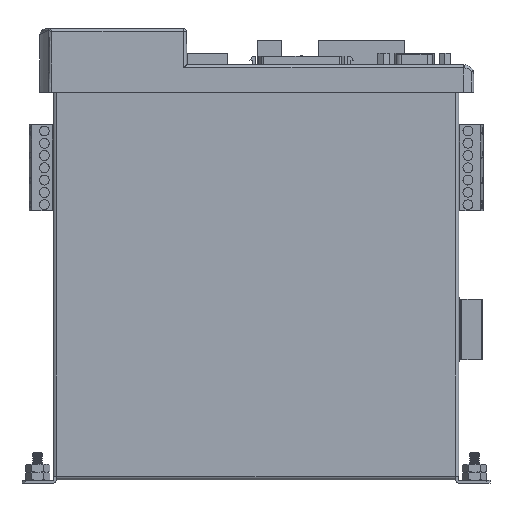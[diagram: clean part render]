
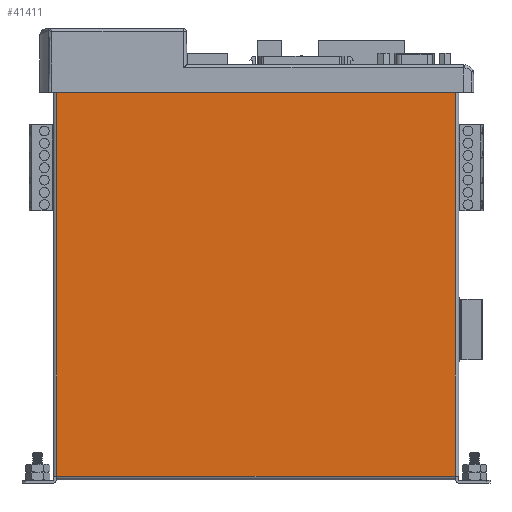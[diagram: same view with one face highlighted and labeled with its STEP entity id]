
A CAD part, left-side view. The second image highlights one B-rep face of the part: STEP entity #41411.
In plain terms, the highlighted planar face has unit normal (-1, 0, 0) as drawn and (0, -1, 0) by its records, which use the part's own axes.
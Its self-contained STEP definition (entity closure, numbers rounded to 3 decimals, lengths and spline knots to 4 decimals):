
#71 = EDGE_LOOP ( 'NONE', ( #45749, #45779, #45161, #45794 ) ) ;
#14504 = VERTEX_POINT ( 'NONE', #113583 ) ;
#14554 = VERTEX_POINT ( 'NONE', #113514 ) ;
#14567 = VERTEX_POINT ( 'NONE', #113500 ) ;
#14676 = VERTEX_POINT ( 'NONE', #113379 ) ;
#34449 = EDGE_CURVE ( 'NONE', #14676, #14567, #86113, .T. ) ;
#34476 = EDGE_CURVE ( 'NONE', #14567, #14554, #86034, .T. ) ;
#34505 = EDGE_CURVE ( 'NONE', #14504, #14676, #86176, .T. ) ;
#34518 = EDGE_CURVE ( 'NONE', #14554, #14504, #86079, .T. ) ;
#41411 = ADVANCED_FACE ( 'NONE', ( #49028 ), #78997, .T. ) ;
#45161 = ORIENTED_EDGE ( 'NONE', *, *, #34449, .T. ) ;
#45749 = ORIENTED_EDGE ( 'NONE', *, *, #34518, .T. ) ;
#45779 = ORIENTED_EDGE ( 'NONE', *, *, #34505, .T. ) ;
#45794 = ORIENTED_EDGE ( 'NONE', *, *, #34476, .T. ) ;
#49028 = FACE_OUTER_BOUND ( 'NONE', #71, .T. ) ;
#78981 = DIRECTION ( 'NONE',  ( 0., -1., 0. ) ) ;
#78997 = PLANE ( 'NONE',  #95956 ) ;
#79104 = CARTESIAN_POINT ( 'NONE',  ( -3.25, 0., 6.59 ) ) ;
#79199 = DIRECTION ( 'NONE',  ( 0., 0., -1. ) ) ;
#86034 = LINE ( 'NONE', #96774, #86236 ) ;
#86079 = LINE ( 'NONE', #96532, #86372 ) ;
#86113 = LINE ( 'NONE', #96592, #86381 ) ;
#86176 = LINE ( 'NONE', #96579, #86356 ) ;
#86236 = VECTOR ( 'NONE', #96773, 39.3701 ) ;
#86356 = VECTOR ( 'NONE', #96577, 39.3701 ) ;
#86372 = VECTOR ( 'NONE', #96568, 39.3701 ) ;
#86381 = VECTOR ( 'NONE', #96593, 39.3701 ) ;
#95956 = AXIS2_PLACEMENT_3D ( 'NONE', #79104, #78981, #79199 ) ;
#96532 = CARTESIAN_POINT ( 'NONE',  ( 3.192, 0., 6.59 ) ) ;
#96568 = DIRECTION ( 'NONE',  ( 0., 0., 1. ) ) ;
#96577 = DIRECTION ( 'NONE',  ( -1., 0., 0. ) ) ;
#96579 = CARTESIAN_POINT ( 'NONE',  ( -3.25, 0., 6.59 ) ) ;
#96592 = CARTESIAN_POINT ( 'NONE',  ( -3.192, 0., 6.59 ) ) ;
#96593 = DIRECTION ( 'NONE',  ( 0., 0., -1. ) ) ;
#96773 = DIRECTION ( 'NONE',  ( 1., 0., 0. ) ) ;
#96774 = CARTESIAN_POINT ( 'NONE',  ( -3.25, 0., 0.058 ) ) ;
#113379 = CARTESIAN_POINT ( 'NONE',  ( -3.192, 0., 6.59 ) ) ;
#113500 = CARTESIAN_POINT ( 'NONE',  ( -3.192, 0., 0.058 ) ) ;
#113514 = CARTESIAN_POINT ( 'NONE',  ( 3.192, 0., 0.058 ) ) ;
#113583 = CARTESIAN_POINT ( 'NONE',  ( 3.192, 0., 6.59 ) ) ;
